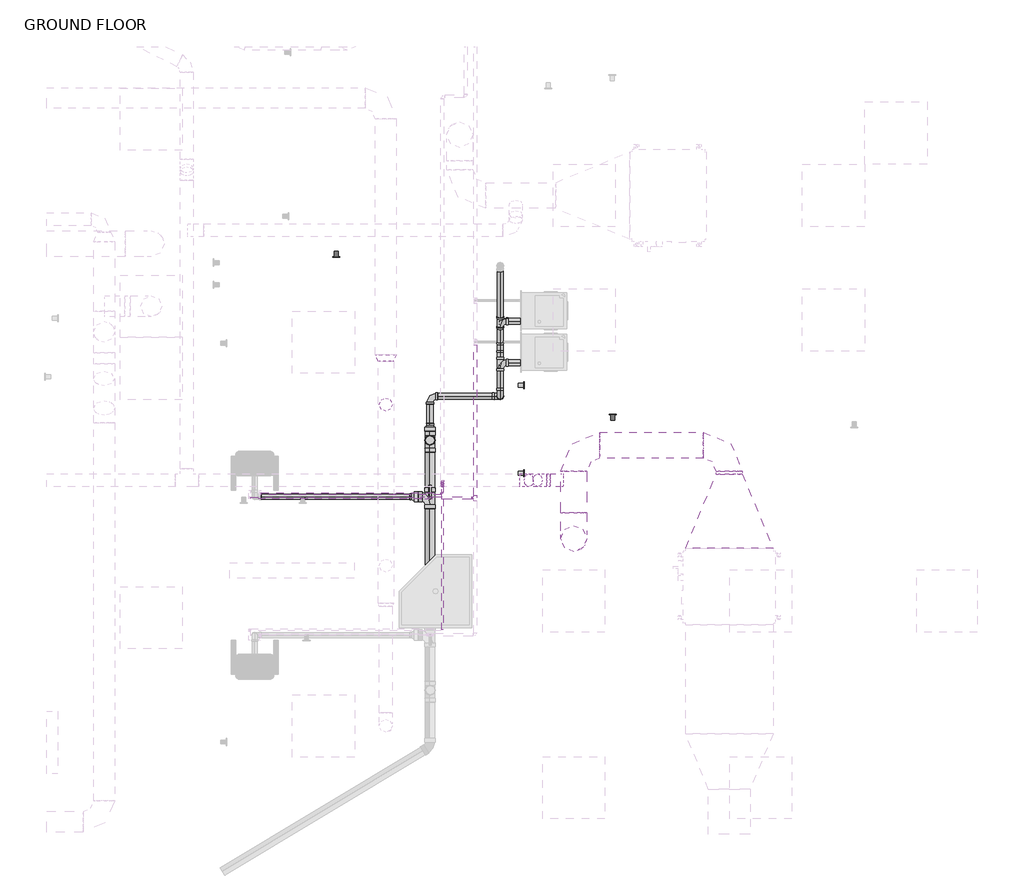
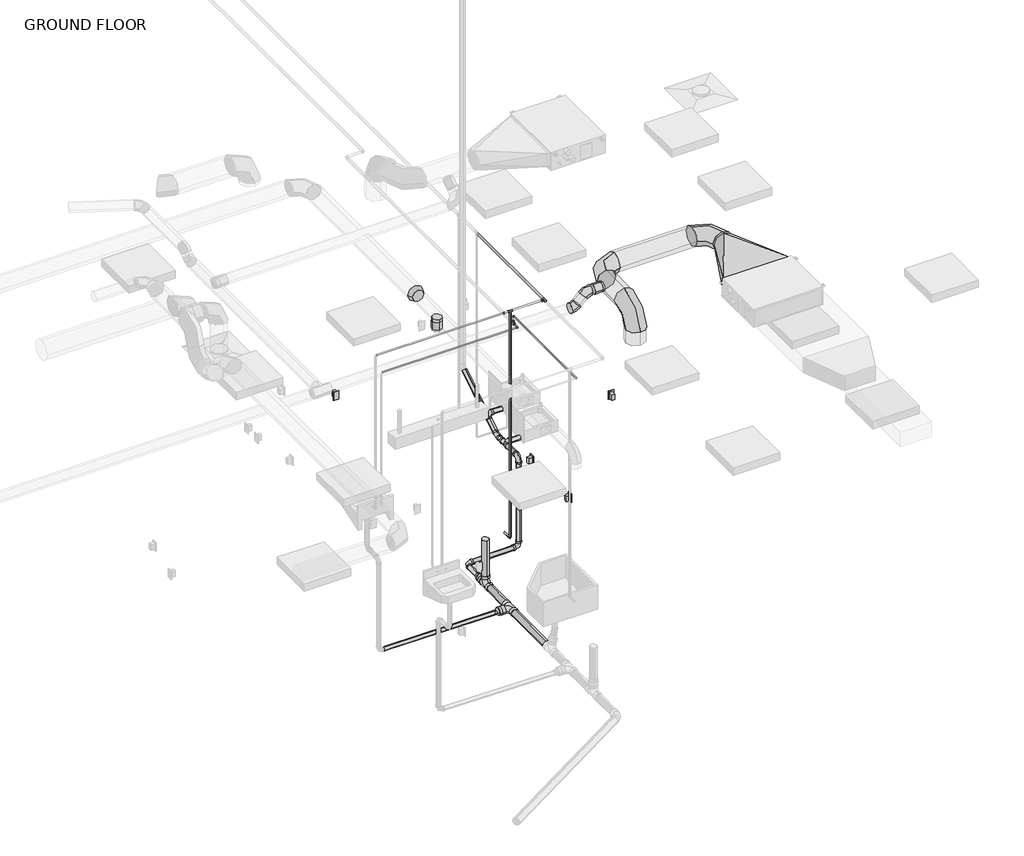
# One storey, part 8 of 20: 23 pipe segments, 20 pipe fittings, 9 duct fittings, 7 duct segments, 2 proxies, 2 switching devices.
"""IFC4 building model written with IfcOpenShell, lengths in millimetres."""

from ifc_helpers import new_model, si_unit, point, frame, frame_2d, origin, place, context, project, spatial, circle_curve, trimmed, segment, composite_curve, outline, extrude, transform, mapped, element, save
from components import duplex_receptacle_countertop_10251bba, rectangular_to_round_transition_angle_45_degree_daff1ed7, round_elbow_1_d_6fec3262, round_elbow_1_d_d98422f0, round_takeoff_standard_0d53327c, round_takeoff_standard_e4d44d96, round_transition_angle_45_degree_998e22e1, bend_pvc_sch_40_dwv_standard_1eaeee76, bend_pvc_sch_40_dwv_standard_d9ad1acb, bend_pvc_sch_40_dwv_standard_2067a29d, bend_pvc_sch_40_dwv_standard_52106326, elbow_generic_standard_738589b0, elbow_generic_standard_a088f956, reducer_pvc_sch_40_dwv_standard_bed7e4d3, reducer_pvc_sch_40_dwv_standard_464ee0c2, tee_generic_standard_5078887e, tee_generic_standard_d345b28c, tee_sanitary_pvc_sch_40_dwv_standard_1c89b272, tee_sanitary_pvc_sch_40_dwv_standard_2808dae9, tee_sanitary_pvc_sch_40_dwv_standard_7b7ecc20, transition_generic_standard_19d9bb8b, transition_generic_standard_44e35838, transition_generic_standard_df161815, transition_generic_standard_1e832544

model = new_model("IFC4")

# Units and contexts
model_context = context("Model", 3, world=origin())
ifc_project = project(units=[si_unit("LENGTHUNIT", "METRE", prefix="MILLI")], contexts=[model_context])

# Site, building, storey
site = spatial("IfcSite", under=ifc_project)
building = spatial("IfcBuilding", under=site)
storey = spatial("IfcBuildingStorey", under=building, Name="GROUND FLOOR", Elevation=30480.0)

# Proxies
placement = place(None, origin())
duplex_receptacle_countertop_shape = duplex_receptacle_countertop_10251bba(model_context)
element("IfcBuildingElementProxy", 1, Name="Duplex Receptacle : Standard", ObjectType="Duplex Receptacle : Standard", at=placement, inside=storey, context=model_context, shape_type="MappedRepresentation", body=[
    mapped(duplex_receptacle_countertop_shape, transform((13856.6545393, -3176.2027773, 30937.2), x_axis=(0.0, 1.0, 0.0), y_axis=(0.0, 0.0, 1.0), z_axis=(1.0, 0.0, 0.0))),
])
element("IfcBuildingElementProxy", 2, Name="Duplex Receptacle : Standard", ObjectType="Duplex Receptacle : Standard", at=placement, inside=storey, context=model_context, shape_type="MappedRepresentation", body=[
    mapped(duplex_receptacle_countertop_shape, transform((13856.6545393, -2316.5298584, 30937.2), x_axis=(0.0, 1.0, 0.0), y_axis=(0.0, 0.0, 1.0), z_axis=(1.0, 0.0, 0.0))),
])

# Duct fittings
rectangular_to_round_transition_angle_45_degree_shape = rectangular_to_round_transition_angle_45_degree_daff1ed7(model_context)
element("IfcDuctFitting", 3, ObjectType="Rectangular to Round Transition - Angle : 45 Degree", at=placement, inside=storey, context=model_context, shape_type="MappedRepresentation", body=[
    mapped(rectangular_to_round_transition_angle_45_degree_shape, transform((15866.7105962, -3910.739426, 33763.74375), x_axis=(0.0, 1.0, 0.0), y_axis=(-1.0, 0.0, 0.0), z_axis=(0.0, 0.0, 1.0))),
])
round_elbow_1_d_shape = round_elbow_1_d_6fec3262(model_context)
element("IfcDuctFitting", 4, ObjectType="Round Elbow : 1 D", at=placement, inside=storey, context=model_context, shape_type="MappedRepresentation", body=[
    mapped(round_elbow_1_d_shape, transform((15866.7105962, -2901.8412376, 33763.74375), x_axis=(0.0, 1.0, 0.0), y_axis=(-1.0, 0.0, 0.0), z_axis=(0.0, 0.0, 1.0))),
])
element("IfcDuctFitting", 5, ObjectType="Round Elbow : 1 D", at=placement, inside=storey, context=model_context, shape_type="MappedRepresentation", body=[
    mapped(round_elbow_1_d_shape, transform((14345.6045393, -3815.3554995, 33763.74375), x_axis=(0.0, 0.0, 1.0), y_axis=(0.0, 1.0, 0.0), z_axis=(-1.0, 0.0, 0.0))),
])
element("IfcDuctFitting", 6, ObjectType="Round Elbow : 1 D", at=placement, inside=storey, context=model_context, shape_type="MappedRepresentation", body=[
    mapped(round_elbow_1_d_shape, transform((14345.6045393, -2901.8412376, 33763.74375), x_axis=(-1.0, 0.0, 0.0), y_axis=(0.0, -1.0, 0.0), z_axis=(0.0, 0.0, 1.0))),
])
round_elbow_1_d_2_shape = round_elbow_1_d_d98422f0(model_context)
element("IfcDuctFitting", 7, ObjectType="Round Elbow : 1 D", at=placement, inside=storey, context=model_context, shape_type="MappedRepresentation", body=[
    mapped(round_elbow_1_d_2_shape, transform((14029.5744977, -3245.6216457, 33763.74375), x_axis=(-1.0, 0.0, 0.0), y_axis=(0.0, 0.0, -1.0), z_axis=(0.0, -1.0, 0.0))),
])
element("IfcDuctFitting", 8, ObjectType="Round Elbow : 1 D", at=placement, inside=storey, context=model_context, shape_type="MappedRepresentation", body=[
    mapped(round_elbow_1_d_2_shape, transform((13868.7409865, -3245.6216457, 33602.9101563), x_axis=(-0.7071065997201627, 0.0, -0.707106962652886), y_axis=(-0.707106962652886, 0.0, 0.7071065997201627), z_axis=(0.0, 1.0, 0.0))),
])
round_takeoff_standard_shape = round_takeoff_standard_0d53327c(model_context)
element("IfcDuctFitting", 9, ObjectType="Round Takeoff : Standard", at=placement, inside=storey, context=model_context, shape_type="MappedRepresentation", body=[
    mapped(round_takeoff_standard_shape, transform((12507.2795393, -2504.0804995, 33451.8), x_axis=(0.0, 0.0, -1.0), y_axis=(-1.0, 0.0, 0.0), z_axis=(0.0, 1.0, 0.0))),
])
round_takeoff_standard_2_shape = round_takeoff_standard_e4d44d96(model_context)
element("IfcDuctFitting", 10, ObjectType="Round Takeoff : Standard", at=placement, inside=storey, context=model_context, shape_type="MappedRepresentation", body=[
    mapped(round_takeoff_standard_2_shape, transform((14218.6045393, -3245.6216457, 33763.74375), x_axis=(-1.0, 0.0, 0.0), y_axis=(0.0, 1.0, 0.0), z_axis=(0.0, 0.0, -1.0))),
])
round_transition_angle_45_degree_shape = round_transition_angle_45_degree_998e22e1(model_context)
element("IfcDuctFitting", 11, ObjectType="Round Transition - Angle : 45 Degree", at=placement, inside=storey, context=model_context, shape_type="MappedRepresentation", body=[
    mapped(round_transition_angle_45_degree_shape, transform((12507.2795393, -2078.3733869, 33528.0), x_axis=(0.0, 1.0, 0.0), y_axis=(-1.0, 0.0, 0.0), z_axis=(0.0, 0.0, 1.0))),
])

# Duct segments
element("IfcDuctSegment", 12, ObjectType="Taps / Short Radius", at=placement, inside=storey, context=model_context, shape_type="SweptSolid", body=[
    extrude(outline(composite_curve([segment(trimmed(circle_curve(frame_2d((33763.74375, 15866.7105962)), 127.0), [point((33763.74375, 15993.7105962))], [point((33890.74375, 15866.7105962))], False, "CARTESIAN"), True, "CONTINUOUS"), segment(trimmed(circle_curve(frame_2d((33763.74375, 15866.7105962)), 127.0), [point((33890.74375, 15866.7105962))], [point((33763.74375, 15739.7105962))], False, "CARTESIAN"), True, "CONTINUOUS"), segment(trimmed(circle_curve(frame_2d((33763.74375, 15866.7105962)), 127.0), [point((33763.74375, 15739.7105962))], [point((33636.74375, 15866.7105962))], False, "CARTESIAN"), True, "CONTINUOUS"), segment(trimmed(circle_curve(frame_2d((33763.74375, 15866.7105962)), 127.0), [point((33636.74375, 15866.7105962))], [point((33763.74375, 15993.7105962))], False, "CARTESIAN"), True, "CONTINUOUS")], self_intersect=False)), frame((0.0, -3184.4685422, 0.0), z_axis=(0.0, 1.0, 0.0), x_axis=(0.0, 0.0, 1.0)), (0.0, 0.0, 1.0), 28.6273046),
])
element("IfcDuctSegment", 13, ObjectType="Taps / Short Radius", at=placement, inside=storey, context=model_context, shape_type="SweptSolid", body=[
    extrude(outline(composite_curve([segment(trimmed(circle_curve(frame_2d((-2901.8412376, 33763.74375)), 127.0), [point((-2774.8412376, 33763.74375))], [point((-2901.8412376, 33636.74375))], False, "CARTESIAN"), True, "CONTINUOUS"), segment(trimmed(circle_curve(frame_2d((-2901.8412376, 33763.74375)), 127.0), [point((-2901.8412376, 33636.74375))], [point((-3028.8412376, 33763.74375))], False, "CARTESIAN"), True, "CONTINUOUS"), segment(trimmed(circle_curve(frame_2d((-2901.8412376, 33763.74375)), 127.0), [point((-3028.8412376, 33763.74375))], [point((-2901.8412376, 33890.74375))], False, "CARTESIAN"), True, "CONTINUOUS"), segment(trimmed(circle_curve(frame_2d((-2901.8412376, 33763.74375)), 127.0), [point((-2901.8412376, 33890.74375))], [point((-2774.8412376, 33763.74375))], False, "CARTESIAN"), True, "CONTINUOUS")], self_intersect=False)), frame((14599.6045393, 0.0, 0.0), z_axis=(1.0, 0.0, 0.0), x_axis=(0.0, 1.0, 0.0)), (0.0, 0.0, 1.0), 1013.1060569),
])
element("IfcDuctSegment", 14, ObjectType="Taps / Short Radius", at=placement, inside=storey, context=model_context, shape_type="SweptSolid", body=[
    extrude(outline(composite_curve([segment(trimmed(circle_curve(frame_2d((33763.74375, 14345.6045393)), 127.0), [point((33763.74375, 14472.6045393))], [point((33890.74375, 14345.6045393))], False, "CARTESIAN"), True, "CONTINUOUS"), segment(trimmed(circle_curve(frame_2d((33763.74375, 14345.6045393)), 127.0), [point((33890.74375, 14345.6045393))], [point((33763.74375, 14218.6045393))], False, "CARTESIAN"), True, "CONTINUOUS"), segment(trimmed(circle_curve(frame_2d((33763.74375, 14345.6045393)), 127.0), [point((33763.74375, 14218.6045393))], [point((33636.74375, 14345.6045393))], False, "CARTESIAN"), True, "CONTINUOUS"), segment(trimmed(circle_curve(frame_2d((33763.74375, 14345.6045393)), 127.0), [point((33636.74375, 14345.6045393))], [point((33763.74375, 14472.6045393))], False, "CARTESIAN"), True, "CONTINUOUS")], self_intersect=False)), frame((0.0, -3561.3554995, 0.0), z_axis=(0.0, 1.0, 0.0), x_axis=(0.0, 0.0, 1.0)), (0.0, 0.0, 1.0), 405.5142618),
])
element("IfcDuctSegment", 15, ObjectType="Taps / Short Radius", at=placement, inside=storey, context=model_context, shape_type="SweptSolid", body=[
    extrude(outline(composite_curve([segment(trimmed(circle_curve(frame_2d((14345.6045393, -3815.3554995)), 127.0), [point((14472.6045393, -3815.3554995))], [point((14345.6045393, -3942.3554995))], False, "CARTESIAN"), True, "CONTINUOUS"), segment(trimmed(circle_curve(frame_2d((14345.6045393, -3815.3554995)), 127.0), [point((14345.6045393, -3942.3554995))], [point((14218.6045393, -3815.3554995))], False, "CARTESIAN"), True, "CONTINUOUS"), segment(trimmed(circle_curve(frame_2d((14345.6045393, -3815.3554995)), 127.0), [point((14218.6045393, -3815.3554995))], [point((14345.6045393, -3688.3554995))], False, "CARTESIAN"), True, "CONTINUOUS"), segment(trimmed(circle_curve(frame_2d((14345.6045393, -3815.3554995)), 127.0), [point((14345.6045393, -3688.3554995))], [point((14472.6045393, -3815.3554995))], False, "CARTESIAN"), True, "CONTINUOUS")], self_intersect=False)), frame((0.0, 0.0, 33324.8), z_axis=(0.0, 0.0, 1.0), x_axis=(1.0, 0.0, 0.0)), (0.0, 0.0, 1.0), 184.94375),
])
element("IfcDuctSegment", 16, ObjectType="Taps / Short Radius", at=placement, inside=storey, context=model_context, shape_type="SweptSolid", body=[
    extrude(outline(composite_curve([segment(trimmed(circle_curve(frame_2d((-3245.6216457, 33763.74375)), 63.5), [point((-3182.1216457, 33763.74375))], [point((-3245.6216457, 33700.24375))], False, "CARTESIAN"), True, "CONTINUOUS"), segment(trimmed(circle_curve(frame_2d((-3245.6216457, 33763.74375)), 63.5), [point((-3245.6216457, 33700.24375))], [point((-3309.1216457, 33763.74375))], False, "CARTESIAN"), True, "CONTINUOUS"), segment(trimmed(circle_curve(frame_2d((-3245.6216457, 33763.74375)), 63.5), [point((-3309.1216457, 33763.74375))], [point((-3245.6216457, 33827.24375))], False, "CARTESIAN"), True, "CONTINUOUS"), segment(trimmed(circle_curve(frame_2d((-3245.6216457, 33763.74375)), 63.5), [point((-3245.6216457, 33827.24375))], [point((-3182.1216457, 33763.74375))], False, "CARTESIAN"), True, "CONTINUOUS")], self_intersect=False)), frame((14082.1796392, 0.0, 0.0), z_axis=(1.0, 0.0, 0.0), x_axis=(0.0, 1.0, 0.0)), (0.0, 0.0, 1.0), 34.8249001),
])
element("IfcDuctSegment", 17, ObjectType="Taps / Short Radius", at=placement, inside=storey, context=model_context, shape_type="SweptSolid", body=[
    extrude(outline(composite_curve([segment(trimmed(circle_curve(frame_2d((0.0, -63.5)), 63.5), [point((0.0, 0.0))], [point((63.5, -63.5))], False, "CARTESIAN"), True, "CONTINUOUS"), segment(trimmed(circle_curve(frame_2d((0.0, -63.5)), 63.5), [point((63.5, -63.5))], [point((0.0, -127.0))], False, "CARTESIAN"), True, "CONTINUOUS"), segment(trimmed(circle_curve(frame_2d((0.0, -63.5)), 63.5), [point((0.0, -127.0))], [point((-63.5, -63.5))], False, "CARTESIAN"), True, "CONTINUOUS"), segment(trimmed(circle_curve(frame_2d((0.0, -63.5)), 63.5), [point((-63.5, -63.5))], [point((0.0, 0.0))], False, "CARTESIAN"), True, "CONTINUOUS")], self_intersect=False)), frame((13905.9384292, -3182.1216457, 33640.1076181), z_axis=(0.7071065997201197, 0.0, 0.7071069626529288), x_axis=(0.7071069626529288, 0.0, -0.7071065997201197)), (0.0, 0.0, 1.0), 122.2427082),
])
element("IfcDuctSegment", 18, ObjectType="Taps / Short Radius", at=placement, inside=storey, context=model_context, shape_type="SweptSolid", body=[
    extrude(outline(composite_curve([segment(trimmed(circle_curve(frame_2d((0.0, 63.5)), 63.5), [point((-63.5, 63.5))], [point((0.0, 127.0))], False, "CARTESIAN"), True, "CONTINUOUS"), segment(trimmed(circle_curve(frame_2d((0.0, 63.5)), 63.5), [point((0.0, 127.0))], [point((63.5, 63.5))], False, "CARTESIAN"), True, "CONTINUOUS"), segment(trimmed(circle_curve(frame_2d((0.0, 63.5)), 63.5), [point((63.5, 63.5))], [point((0.0, 0.0))], False, "CARTESIAN"), True, "CONTINUOUS"), segment(trimmed(circle_curve(frame_2d((0.0, 63.5)), 63.5), [point((0.0, 0.0))], [point((-63.5, 63.5))], False, "CARTESIAN"), True, "CONTINUOUS")], self_intersect=False)), frame((12507.2795393, -2567.5804995, 33324.8), z_axis=(0.0, -2.3192114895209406e-12, 1.0), x_axis=(1.0, 0.0, 0.0)), (0.0, 0.0, 1.0), 25.4),
])

# Pipe fittings
bend_pvc_sch_40_dwv_standard_shape = bend_pvc_sch_40_dwv_standard_1eaeee76(model_context)
element("IfcPipeFitting", 19, ObjectType="Bend - PVC - Sch 40 - DWV : Standard", at=placement, inside=storey, context=model_context, shape_type="MappedRepresentation", body=[
    mapped(bend_pvc_sch_40_dwv_standard_shape, transform((13624.8795393, -2421.2610943, 31115.0), x_axis=(0.0, 0.0, 1.0), y_axis=(0.0, 1.0, 0.0), z_axis=(-1.0, 0.0, 0.0))),
])
bend_pvc_sch_40_dwv_standard_2_shape = bend_pvc_sch_40_dwv_standard_d9ad1acb(model_context)
element("IfcPipeFitting", 20, ObjectType="Bend - PVC - Sch 40 - DWV : Standard", at=placement, inside=storey, context=model_context, shape_type="MappedRepresentation", body=[
    mapped(bend_pvc_sch_40_dwv_standard_2_shape, transform((13624.8795393, -1937.3303096, 31115.0), x_axis=(0.0, 1.0, 0.0), y_axis=(0.0, 0.0, 1.0), z_axis=(1.0, 0.0, 0.0))),
])
bend_pvc_sch_40_dwv_standard_3_shape = bend_pvc_sch_40_dwv_standard_2067a29d(model_context)
element("IfcPipeFitting", 21, ObjectType="Bend - PVC - Sch 40 - DWV : Standard", at=placement, inside=storey, context=model_context, shape_type="MappedRepresentation", body=[
    mapped(bend_pvc_sch_40_dwv_standard_3_shape, transform((12939.0795393, -2421.2610943, 29874.8317708), x_axis=(-0.9999457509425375, 0.0, -0.010416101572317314), y_axis=(0.0001084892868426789, -0.9999457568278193, -0.010414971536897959), z_axis=(-0.010415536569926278, -0.010415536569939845, 0.9998915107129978))),
])
bend_pvc_sch_40_dwv_standard_4_shape = bend_pvc_sch_40_dwv_standard_52106326(model_context)
element("IfcPipeFitting", 22, ObjectType="Bend - PVC - Sch 40 - DWV : Standard", at=placement, inside=storey, context=model_context, shape_type="MappedRepresentation", body=[
    mapped(bend_pvc_sch_40_dwv_standard_4_shape, transform((13624.8795393, -2421.2610943, 29881.9755208), x_axis=(0.9999457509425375, 0.0, 0.010416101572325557), y_axis=(-0.010416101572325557, 0.0, 0.9999457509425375), z_axis=(0.0, -1.0, 0.0))),
])
elbow_generic_standard_shape = elbow_generic_standard_738589b0(model_context)
element("IfcPipeFitting", 23, ObjectType="Elbow - Generic : Standard", at=placement, inside=storey, context=model_context, shape_type="MappedRepresentation", body=[
    mapped(elbow_generic_standard_shape, transform((12939.0795393, -3418.4804995, 30835.6), x_axis=(0.0, 0.0, -1.0), y_axis=(0.0, 1.0, 0.0), z_axis=(1.0, 0.0, 0.0))),
])
elbow_generic_standard_2_shape = elbow_generic_standard_a088f956(model_context)
element("IfcPipeFitting", 24, ObjectType="Elbow - Generic : Standard", at=placement, inside=storey, context=model_context, shape_type="MappedRepresentation", body=[
    mapped(elbow_generic_standard_2_shape, transform((13060.9512041, -3376.3689834, 33680.4), x_axis=(1.0, 0.0, 0.0), y_axis=(0.0, 1.0, 0.0), z_axis=(0.0, 0.0, 1.0))),
])
element("IfcPipeFitting", 25, ObjectType="Elbow - Generic : Standard", at=placement, inside=storey, context=model_context, shape_type="MappedRepresentation", body=[
    mapped(elbow_generic_standard_2_shape, transform((13060.9512041, -3272.4304995, 33782.0), x_axis=(0.0, 1.0, 0.0), y_axis=(0.0, 0.0, -1.0), z_axis=(-1.0, 0.0, 0.0))),
])
reducer_pvc_sch_40_dwv_standard_shape = reducer_pvc_sch_40_dwv_standard_bed7e4d3(model_context)
element("IfcPipeFitting", 26, ObjectType="Reducer - PVC - Sch 40 - DWV : Standard", at=placement, inside=storey, context=model_context, shape_type="MappedRepresentation", body=[
    mapped(reducer_pvc_sch_40_dwv_standard_shape, transform((12823.1798933, -3405.7804995, 29865.00368), x_axis=(-0.9999952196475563, 0.0, 0.0030920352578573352), y_axis=(-3.2206799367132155e-05, -0.9999457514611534, -0.010416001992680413), z_axis=(0.003091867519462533, -0.010416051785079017, 0.9999409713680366))),
])
reducer_pvc_sch_40_dwv_standard_2_shape = reducer_pvc_sch_40_dwv_standard_464ee0c2(model_context)
element("IfcPipeFitting", 27, ObjectType="Reducer - PVC - Sch 40 - DWV : Standard", at=placement, inside=storey, context=model_context, shape_type="MappedRepresentation", body=[
    mapped(reducer_pvc_sch_40_dwv_standard_2_shape, transform((12939.0795393, -2764.1614629, 29871.3288441), x_axis=(0.0, 0.9999457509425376, 0.010416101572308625), y_axis=(-1.0, 0.0, 0.0), z_axis=(0.0, -0.010416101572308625, 0.9999457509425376))),
])
tee_generic_standard_shape = tee_generic_standard_5078887e(model_context)
element("IfcPipeFitting", 28, ObjectType="Tee - Generic : Standard", at=placement, inside=storey, context=model_context, shape_type="MappedRepresentation", body=[
    mapped(tee_generic_standard_shape, transform((12939.0795393, -3418.4804995, 33978.2831664), x_axis=(-1.0, 0.0, 0.0), y_axis=(0.0, 0.0, 1.0), z_axis=(0.0, 1.0, 0.0))),
])
tee_generic_standard_2_shape = tee_generic_standard_d345b28c(model_context)
element("IfcPipeFitting", 29, ObjectType="Tee - Generic : Standard", at=placement, inside=storey, context=model_context, shape_type="MappedRepresentation", body=[
    mapped(tee_generic_standard_2_shape, transform((13383.5569177, -3418.4804995, 33978.2831664), x_axis=(0.0, -1.0, 0.0), y_axis=(1.0, 0.0, 0.0), z_axis=(0.0, 0.0, 1.0))),
])
element("IfcPipeFitting", 30, ObjectType="Tee - Generic : Standard", at=placement, inside=storey, context=model_context, shape_type="MappedRepresentation", body=[
    mapped(tee_generic_standard_2_shape, transform((13060.9512041, -3272.4304995, 33680.4), x_axis=(0.0, 1.0, 0.0), y_axis=(0.0, 0.0, -1.0), z_axis=(-1.0, 0.0, 0.0))),
])
tee_sanitary_pvc_sch_40_dwv_standard_shape = tee_sanitary_pvc_sch_40_dwv_standard_1c89b272(model_context)
element("IfcPipeFitting", 31, ObjectType="Tee Sanitary - PVC - Sch 40 - DWV : Standard", at=placement, inside=storey, context=model_context, shape_type="MappedRepresentation", body=[
    mapped(tee_sanitary_pvc_sch_40_dwv_standard_shape, transform((12939.0795393, -2853.3308732, 29870.3999961), x_axis=(0.0, 0.9999457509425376, 0.010416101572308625), y_axis=(0.0, 0.010416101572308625, -0.9999457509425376), z_axis=(-1.0, 0.0, 0.0))),
])
tee_sanitary_pvc_sch_40_dwv_standard_2_shape = tee_sanitary_pvc_sch_40_dwv_standard_2808dae9(model_context)
element("IfcPipeFitting", 32, ObjectType="Tee Sanitary - PVC - Sch 40 - DWV : Standard", at=placement, inside=storey, context=model_context, shape_type="MappedRepresentation", body=[
    mapped(tee_sanitary_pvc_sch_40_dwv_standard_2_shape, transform((12939.0795393, -3405.7804995, 29864.6453125), x_axis=(0.0, 0.9999457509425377, 0.010416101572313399), y_axis=(0.9999952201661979, 3.2205206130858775e-05, -0.0030916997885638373), z_axis=(-0.0030918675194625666, 0.010416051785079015, -0.9999409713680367))),
])
tee_sanitary_pvc_sch_40_dwv_standard_3_shape = tee_sanitary_pvc_sch_40_dwv_standard_7b7ecc20(model_context)
element("IfcPipeFitting", 33, ObjectType="Tee Sanitary - PVC - Sch 40 - DWV : Standard", at=placement, inside=storey, context=model_context, shape_type="MappedRepresentation", body=[
    mapped(tee_sanitary_pvc_sch_40_dwv_standard_3_shape, transform((13624.8795393, -2094.5054995, 31115.0), x_axis=(0.0, 1.0, 0.0), y_axis=(-1.0, 0.0, 0.0), z_axis=(0.0, 0.0, 1.0))),
])
element("IfcPipeFitting", 34, ObjectType="Tee Sanitary - PVC - Sch 40 - DWV : Standard", at=placement, inside=storey, context=model_context, shape_type="MappedRepresentation", body=[
    mapped(tee_sanitary_pvc_sch_40_dwv_standard_3_shape, transform((13624.8795393, -1688.1054995, 31267.4), x_axis=(0.0, 0.8531356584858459, 0.5216891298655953), y_axis=(-1.0, 0.0, 0.0), z_axis=(0.0, -0.5216891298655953, 0.8531356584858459))),
])
transition_generic_standard_shape = transition_generic_standard_19d9bb8b(model_context)
element("IfcPipeFitting", 35, ObjectType="Transition - Generic : Standard", at=placement, inside=storey, context=model_context, shape_type="MappedRepresentation", body=[
    mapped(transition_generic_standard_shape, transform((13060.9512041, -3272.4304995, 33707.3875), x_axis=(0.0, 0.0, 1.0), y_axis=(0.0, 1.0, 0.0), z_axis=(-1.0, 0.0, 0.0))),
])
transition_generic_standard_2_shape = transition_generic_standard_44e35838(model_context)
element("IfcPipeFitting", 36, ObjectType="Transition - Generic : Standard", at=placement, inside=storey, context=model_context, shape_type="MappedRepresentation", body=[
    mapped(transition_generic_standard_2_shape, transform((12855.7357893, -3418.4804995, 33978.2831664), x_axis=(-1.0, 0.0, 0.0), y_axis=(0.0, -1.0, 0.0), z_axis=(0.0, 0.0, 1.0))),
])
transition_generic_standard_3_shape = transition_generic_standard_df161815(model_context)
element("IfcPipeFitting", 37, ObjectType="Transition - Generic : Standard", at=placement, inside=storey, context=model_context, shape_type="MappedRepresentation", body=[
    mapped(transition_generic_standard_3_shape, transform((13060.9512041, -3299.4179995, 33680.4), x_axis=(0.0, -1.0, 0.0), y_axis=(1.0, 0.0, 0.0), z_axis=(0.0, 0.0, 1.0))),
])
transition_generic_standard_4_shape = transition_generic_standard_1e832544(model_context)
element("IfcPipeFitting", 38, ObjectType="Transition - Generic : Standard", at=placement, inside=storey, context=model_context, shape_type="MappedRepresentation", body=[
    mapped(transition_generic_standard_4_shape, transform((13356.5694177, -3418.4804995, 33978.2831664), x_axis=(-1.0, 0.0, 0.0), y_axis=(0.0, -1.0, 0.0), z_axis=(0.0, 0.0, 1.0))),
])

# Pipe segments
element("IfcPipeSegment", 39, ObjectType="Copper Tubing", at=placement, inside=storey, context=model_context, shape_type="SweptSolid", body=[
    extrude(outline(composite_curve([segment(trimmed(circle_curve(frame_2d((-3418.4804995, 33978.2831664)), 7.9375), [point((-3426.4179995, 33978.2831664))], [point((-3418.4804995, 33986.2206664))], False, "CARTESIAN"), True, "CONTINUOUS"), segment(trimmed(circle_curve(frame_2d((-3418.4804995, 33978.2831664)), 7.9375), [point((-3418.4804995, 33986.2206664))], [point((-3410.5429995, 33978.2831664))], False, "CARTESIAN"), True, "CONTINUOUS"), segment(trimmed(circle_curve(frame_2d((-3418.4804995, 33978.2831664)), 7.9375), [point((-3410.5429995, 33978.2831664))], [point((-3418.4804995, 33970.3456664))], False, "CARTESIAN"), True, "CONTINUOUS"), segment(trimmed(circle_curve(frame_2d((-3418.4804995, 33978.2831664)), 7.9375), [point((-3418.4804995, 33970.3456664))], [point((-3426.4179995, 33978.2831664))], False, "CARTESIAN"), True, "CONTINUOUS")], self_intersect=False)), frame((11188.0670393, 0.0, 0.0), z_axis=(1.0, 0.0, 0.0), x_axis=(0.0, 1.0, 0.0)), (0.0, 0.0, 1.0), 1662.1125),
])
element("IfcPipeSegment", 40, ObjectType="Copper Tubing", at=placement, inside=storey, context=model_context, shape_type="SweptSolid", body=[
    extrude(outline(composite_curve([segment(trimmed(circle_curve(frame_2d((-3418.4804995, 33978.2831664)), 11.1125), [point((-3407.3679995, 33978.2831664))], [point((-3418.4804995, 33967.1706664))], False, "CARTESIAN"), True, "CONTINUOUS"), segment(trimmed(circle_curve(frame_2d((-3418.4804995, 33978.2831664)), 11.1125), [point((-3418.4804995, 33967.1706664))], [point((-3429.5929995, 33978.2831664))], False, "CARTESIAN"), True, "CONTINUOUS"), segment(trimmed(circle_curve(frame_2d((-3418.4804995, 33978.2831664)), 11.1125), [point((-3429.5929995, 33978.2831664))], [point((-3418.4804995, 33989.3956664))], False, "CARTESIAN"), True, "CONTINUOUS"), segment(trimmed(circle_curve(frame_2d((-3418.4804995, 33978.2831664)), 11.1125), [point((-3418.4804995, 33989.3956664))], [point((-3407.3679995, 33978.2831664))], False, "CARTESIAN"), True, "CONTINUOUS")], self_intersect=False)), frame((12855.7357893, 0.0, 0.0), z_axis=(1.0, 0.0, 0.0), x_axis=(0.0, 1.0, 0.0)), (0.0, 0.0, 1.0), 59.53125),
])
element("IfcPipeSegment", 41, ObjectType="Copper Tubing", at=placement, inside=storey, context=model_context, shape_type="SweptSolid", body=[
    extrude(outline(composite_curve([segment(trimmed(circle_curve(frame_2d((33978.2831664, 13383.5569177)), 14.2875), [point((33978.2831664, 13369.2694177))], [point((33963.9956664, 13383.5569177))], False, "CARTESIAN"), True, "CONTINUOUS"), segment(trimmed(circle_curve(frame_2d((33978.2831664, 13383.5569177)), 14.2875), [point((33963.9956664, 13383.5569177))], [point((33978.2831664, 13397.8444177))], False, "CARTESIAN"), True, "CONTINUOUS"), segment(trimmed(circle_curve(frame_2d((33978.2831664, 13383.5569177)), 14.2875), [point((33978.2831664, 13397.8444177))], [point((33992.5706664, 13383.5569177))], False, "CARTESIAN"), True, "CONTINUOUS"), segment(trimmed(circle_curve(frame_2d((33978.2831664, 13383.5569177)), 14.2875), [point((33992.5706664, 13383.5569177))], [point((33978.2831664, 13369.2694177))], False, "CARTESIAN"), True, "CONTINUOUS")], self_intersect=False)), frame((0.0, -3391.4929995, 0.0), z_axis=(0.0, 1.0, 0.0), x_axis=(0.0, 0.0, 1.0)), (0.0, 0.0, 1.0), 1473.2),
])
element("IfcPipeSegment", 42, ObjectType="Copper Tubing", at=placement, inside=storey, context=model_context, shape_type="SweptSolid", body=[
    extrude(outline(composite_curve([segment(trimmed(circle_curve(frame_2d((30835.6, 12939.0795393)), 11.1125), [point((30835.6, 12950.1920393))], [point((30846.7125, 12939.0795393))], False, "CARTESIAN"), True, "CONTINUOUS"), segment(trimmed(circle_curve(frame_2d((30835.6, 12939.0795393)), 11.1125), [point((30846.7125, 12939.0795393))], [point((30835.6, 12927.9670393))], False, "CARTESIAN"), True, "CONTINUOUS"), segment(trimmed(circle_curve(frame_2d((30835.6, 12939.0795393)), 11.1125), [point((30835.6, 12927.9670393))], [point((30824.4875, 12939.0795393))], False, "CARTESIAN"), True, "CONTINUOUS"), segment(trimmed(circle_curve(frame_2d((30835.6, 12939.0795393)), 11.1125), [point((30824.4875, 12939.0795393))], [point((30835.6, 12950.1920393))], False, "CARTESIAN"), True, "CONTINUOUS")], self_intersect=False)), frame((0.0, -3401.0179995, 0.0), z_axis=(0.0, 1.0, 0.0), x_axis=(0.0, 0.0, 1.0)), (0.0, 0.0, 1.0), 109.5375),
])
element("IfcPipeSegment", 43, ObjectType="Copper Tubing", at=placement, inside=storey, context=model_context, shape_type="SweptSolid", body=[
    extrude(outline(composite_curve([segment(trimmed(circle_curve(frame_2d((12939.0795393, -3418.4804995)), 11.1125), [point((12950.1920393, -3418.4804995))], [point((12939.0795393, -3429.5929995))], False, "CARTESIAN"), True, "CONTINUOUS"), segment(trimmed(circle_curve(frame_2d((12939.0795393, -3418.4804995)), 11.1125), [point((12939.0795393, -3429.5929995))], [point((12927.9670393, -3418.4804995))], False, "CARTESIAN"), True, "CONTINUOUS"), segment(trimmed(circle_curve(frame_2d((12939.0795393, -3418.4804995)), 11.1125), [point((12927.9670393, -3418.4804995))], [point((12939.0795393, -3407.3679995))], False, "CARTESIAN"), True, "CONTINUOUS"), segment(trimmed(circle_curve(frame_2d((12939.0795393, -3418.4804995)), 11.1125), [point((12939.0795393, -3407.3679995))], [point((12950.1920393, -3418.4804995))], False, "CARTESIAN"), True, "CONTINUOUS")], self_intersect=False)), frame((0.0, 0.0, 30853.0625), z_axis=(0.0, 0.0, 1.0), x_axis=(1.0, 0.0, 0.0)), (0.0, 0.0, 1.0), 3101.4081664),
])
element("IfcPipeSegment", 44, ObjectType="Copper Tubing", at=placement, inside=storey, context=model_context, shape_type="SweptSolid", body=[
    extrude(outline(composite_curve([segment(trimmed(circle_curve(frame_2d((-3418.4804995, 33978.2831664)), 11.1125), [point((-3407.3679995, 33978.2831664))], [point((-3418.4804995, 33967.1706664))], False, "CARTESIAN"), True, "CONTINUOUS"), segment(trimmed(circle_curve(frame_2d((-3418.4804995, 33978.2831664)), 11.1125), [point((-3418.4804995, 33967.1706664))], [point((-3429.5929995, 33978.2831664))], False, "CARTESIAN"), True, "CONTINUOUS"), segment(trimmed(circle_curve(frame_2d((-3418.4804995, 33978.2831664)), 11.1125), [point((-3429.5929995, 33978.2831664))], [point((-3418.4804995, 33989.3956664))], False, "CARTESIAN"), True, "CONTINUOUS"), segment(trimmed(circle_curve(frame_2d((-3418.4804995, 33978.2831664)), 11.1125), [point((-3418.4804995, 33989.3956664))], [point((-3407.3679995, 33978.2831664))], False, "CARTESIAN"), True, "CONTINUOUS")], self_intersect=False)), frame((12962.8920393, 0.0, 0.0), z_axis=(1.0, 0.0, 0.0), x_axis=(0.0, 1.0, 0.0)), (0.0, 0.0, 1.0), 386.5336284),
])
element("IfcPipeSegment", 45, ObjectType="Copper Tubing", at=placement, inside=storey, context=model_context, shape_type="SweptSolid", body=[
    extrude(outline(composite_curve([segment(trimmed(circle_curve(frame_2d((33680.4, 13060.9512041)), 7.9375), [point((33680.4, 13053.0137041))], [point((33672.4625, 13060.9512041))], False, "CARTESIAN"), True, "CONTINUOUS"), segment(trimmed(circle_curve(frame_2d((33680.4, 13060.9512041)), 7.9375), [point((33672.4625, 13060.9512041))], [point((33680.4, 13068.8887041))], False, "CARTESIAN"), True, "CONTINUOUS"), segment(trimmed(circle_curve(frame_2d((33680.4, 13060.9512041)), 7.9375), [point((33680.4, 13068.8887041))], [point((33688.3375, 13060.9512041))], False, "CARTESIAN"), True, "CONTINUOUS"), segment(trimmed(circle_curve(frame_2d((33680.4, 13060.9512041)), 7.9375), [point((33688.3375, 13060.9512041))], [point((33680.4, 13053.0137041))], False, "CARTESIAN"), True, "CONTINUOUS")], self_intersect=False)), frame((0.0, -3362.0814834, 0.0), z_axis=(0.0, 1.0, 0.0), x_axis=(0.0, 0.0, 1.0)), (0.0, 0.0, 1.0), 55.5197339),
])
element("IfcPipeSegment", 46, ObjectType="Copper Tubing", at=placement, inside=storey, context=model_context, shape_type="SweptSolid", body=[
    extrude(outline(composite_curve([segment(trimmed(circle_curve(frame_2d((-3376.3689834, 33680.4)), 7.9375), [point((-3368.4314834, 33680.4))], [point((-3376.3689834, 33672.4625))], False, "CARTESIAN"), True, "CONTINUOUS"), segment(trimmed(circle_curve(frame_2d((-3376.3689834, 33680.4)), 7.9375), [point((-3376.3689834, 33672.4625))], [point((-3384.3064834, 33680.4))], False, "CARTESIAN"), True, "CONTINUOUS"), segment(trimmed(circle_curve(frame_2d((-3376.3689834, 33680.4)), 7.9375), [point((-3384.3064834, 33680.4))], [point((-3376.3689834, 33688.3375))], False, "CARTESIAN"), True, "CONTINUOUS"), segment(trimmed(circle_curve(frame_2d((-3376.3689834, 33680.4)), 7.9375), [point((-3376.3689834, 33688.3375))], [point((-3368.4314834, 33680.4))], False, "CARTESIAN"), True, "CONTINUOUS")], self_intersect=False)), frame((11289.6670393, 0.0, 0.0), z_axis=(1.0, 0.0, 0.0), x_axis=(0.0, 1.0, 0.0)), (0.0, 0.0, 1.0), 1756.9966648),
])
element("IfcPipeSegment", 47, ObjectType="Copper Tubing", at=placement, inside=storey, context=model_context, shape_type="SweptSolid", body=[
    extrude(outline(composite_curve([segment(trimmed(circle_curve(frame_2d((33782.0, 13060.9512041)), 7.9375), [point((33782.0, 13068.8887041))], [point((33789.9375, 13060.9512041))], False, "CARTESIAN"), True, "CONTINUOUS"), segment(trimmed(circle_curve(frame_2d((33782.0, 13060.9512041)), 7.9375), [point((33789.9375, 13060.9512041))], [point((33782.0, 13053.0137041))], False, "CARTESIAN"), True, "CONTINUOUS"), segment(trimmed(circle_curve(frame_2d((33782.0, 13060.9512041)), 7.9375), [point((33782.0, 13053.0137041))], [point((33774.0625, 13060.9512041))], False, "CARTESIAN"), True, "CONTINUOUS"), segment(trimmed(circle_curve(frame_2d((33782.0, 13060.9512041)), 7.9375), [point((33774.0625, 13060.9512041))], [point((33782.0, 13068.8887041))], False, "CARTESIAN"), True, "CONTINUOUS")], self_intersect=False)), frame((0.0, -4707.5304995, 0.0), z_axis=(0.0, 1.0, 0.0), x_axis=(0.0, 0.0, 1.0)), (0.0, 0.0, 1.0), 1420.8125),
])
element("IfcPipeSegment", 48, ObjectType="Copper Tubing", at=placement, inside=storey, context=model_context, shape_type="SweptSolid", body=[
    extrude(outline(composite_curve([segment(trimmed(circle_curve(frame_2d((13060.9512041, -3272.4304995)), 7.9375), [point((13053.0137041, -3272.4304995))], [point((13060.9512041, -3264.4929995))], False, "CARTESIAN"), True, "CONTINUOUS"), segment(trimmed(circle_curve(frame_2d((13060.9512041, -3272.4304995)), 7.9375), [point((13060.9512041, -3264.4929995))], [point((13068.8887041, -3272.4304995))], False, "CARTESIAN"), True, "CONTINUOUS"), segment(trimmed(circle_curve(frame_2d((13060.9512041, -3272.4304995)), 7.9375), [point((13068.8887041, -3272.4304995))], [point((13060.9512041, -3280.3679995))], False, "CARTESIAN"), True, "CONTINUOUS"), segment(trimmed(circle_curve(frame_2d((13060.9512041, -3272.4304995)), 7.9375), [point((13060.9512041, -3280.3679995))], [point((13053.0137041, -3272.4304995))], False, "CARTESIAN"), True, "CONTINUOUS")], self_intersect=False)), frame((0.0, 0.0, 33714.53125), z_axis=(0.0, 0.0, 1.0), x_axis=(1.0, 0.0, 0.0)), (0.0, 0.0, 1.0), 53.18125),
])
element("IfcPipeSegment", 49, ObjectType="PVC - DWV", at=placement, inside=storey, context=model_context, shape_type="SweptSolid", body=[
    extrude(outline(composite_curve([segment(trimmed(circle_curve(frame_2d((0.0, -44.45)), 44.45), [point((-44.45, -44.45))], [point((0.0, 0.0))], False, "CARTESIAN"), True, "CONTINUOUS"), segment(trimmed(circle_curve(frame_2d((0.0, -44.45)), 44.45), [point((0.0, 0.0))], [point((44.45, -44.45))], False, "CARTESIAN"), True, "CONTINUOUS"), segment(trimmed(circle_curve(frame_2d((0.0, -44.45)), 44.45), [point((44.45, -44.45))], [point((0.0, -88.9))], False, "CARTESIAN"), True, "CONTINUOUS"), segment(trimmed(circle_curve(frame_2d((0.0, -44.45)), 44.45), [point((0.0, -88.9))], [point((-44.45, -44.45))], False, "CARTESIAN"), True, "CONTINUOUS")], self_intersect=False)), frame((12939.0795393, -2897.7808732, 29986.3002298), z_axis=(0.0, 7.569413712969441e-07, 0.9999999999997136), x_axis=(-1.0, 0.0, 0.0)), (0.0, 0.0, 1.0), 493.6998039),
])
element("IfcPipeSegment", 50, ObjectType="PVC - DWV", at=placement, inside=storey, context=model_context, shape_type="SweptSolid", body=[
    extrude(outline(composite_curve([segment(trimmed(circle_curve(frame_2d((0.0, 24.209375)), 24.209375), [point((0.0, 48.41875))], [point((24.209375, 24.209375))], False, "CARTESIAN"), True, "CONTINUOUS"), segment(trimmed(circle_curve(frame_2d((0.0, 24.209375)), 24.209375), [point((24.209375, 24.209375))], [point((0.0, 0.0))], False, "CARTESIAN"), True, "CONTINUOUS"), segment(trimmed(circle_curve(frame_2d((0.0, 24.209375)), 24.209375), [point((0.0, 0.0))], [point((-24.209375, 24.209375))], False, "CARTESIAN"), True, "CONTINUOUS"), segment(trimmed(circle_curve(frame_2d((0.0, 24.209375)), 24.209375), [point((-24.209375, 24.209375))], [point((0.0, 48.41875))], False, "CARTESIAN"), True, "CONTINUOUS")], self_intersect=False)), frame((12739.8428917, -3429.9898745, 29865.2613622), z_axis=(-0.9999952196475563, 0.0, 0.0030920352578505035), x_axis=(0.0030920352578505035, 0.0, 0.9999952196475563)), (0.0, 0.0, 1.0), 1453.370796),
])
element("IfcPipeSegment", 51, ObjectType="PVC - DWV", at=placement, inside=storey, context=model_context, shape_type="SweptSolid", body=[
    extrude(outline(composite_curve([segment(trimmed(circle_curve(frame_2d((0.0, -44.45)), 44.45), [point((-44.45, -44.45))], [point((0.0, 0.0))], False, "CARTESIAN"), True, "CONTINUOUS"), segment(trimmed(circle_curve(frame_2d((0.0, -44.45)), 44.45), [point((0.0, 0.0))], [point((44.45, -44.45))], False, "CARTESIAN"), True, "CONTINUOUS"), segment(trimmed(circle_curve(frame_2d((0.0, -44.45)), 44.45), [point((44.45, -44.45))], [point((0.0, -88.8999999))], False, "CARTESIAN"), True, "CONTINUOUS"), segment(trimmed(circle_curve(frame_2d((0.0, -44.45)), 44.45), [point((0.0, -88.8999999))], [point((-44.45, -44.45))], False, "CARTESIAN"), True, "CONTINUOUS")], self_intersect=False)), frame((12939.0795393, -3316.953192, 29821.1181855), z_axis=(0.0, 0.9999457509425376, 0.010416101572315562), x_axis=(1.0, 0.0, 0.0)), (0.0, 0.0, 1.0), 348.2102921),
])
element("IfcPipeSegment", 52, ObjectType="PVC - DWV", at=placement, inside=storey, context=model_context, shape_type="SweptSolid", body=[
    extrude(outline(composite_curve([segment(trimmed(circle_curve(frame_2d((-2094.5054995, 31115.0)), 30.1625), [point((-2064.3429995, 31115.0))], [point((-2094.5054995, 31084.8375))], False, "CARTESIAN"), True, "CONTINUOUS"), segment(trimmed(circle_curve(frame_2d((-2094.5054995, 31115.0)), 30.1625), [point((-2094.5054995, 31084.8375))], [point((-2124.6679995, 31115.0))], False, "CARTESIAN"), True, "CONTINUOUS"), segment(trimmed(circle_curve(frame_2d((-2094.5054995, 31115.0)), 30.1625), [point((-2124.6679995, 31115.0))], [point((-2094.5054995, 31145.1625))], False, "CARTESIAN"), True, "CONTINUOUS"), segment(trimmed(circle_curve(frame_2d((-2094.5054995, 31115.0)), 30.1625), [point((-2094.5054995, 31145.1625))], [point((-2064.3429995, 31115.0))], False, "CARTESIAN"), True, "CONTINUOUS")], self_intersect=False)), frame((13702.6797393, 0.0, 0.0), z_axis=(1.0, 0.0, 0.0), x_axis=(0.0, 1.0, 0.0)), (0.0, 0.0, 1.0), 125.3998),
])
element("IfcPipeSegment", 53, ObjectType="PVC - DWV", at=placement, inside=storey, context=model_context, shape_type="SweptSolid", body=[
    extrude(outline(composite_curve([segment(trimmed(circle_curve(frame_2d((-1688.1054995, 31267.4)), 30.1625), [point((-1657.9429995, 31267.4))], [point((-1688.1054995, 31237.2375))], False, "CARTESIAN"), True, "CONTINUOUS"), segment(trimmed(circle_curve(frame_2d((-1688.1054995, 31267.4)), 30.1625), [point((-1688.1054995, 31237.2375))], [point((-1718.2679995, 31267.4))], False, "CARTESIAN"), True, "CONTINUOUS"), segment(trimmed(circle_curve(frame_2d((-1688.1054995, 31267.4)), 30.1625), [point((-1718.2679995, 31267.4))], [point((-1688.1054995, 31297.5625))], False, "CARTESIAN"), True, "CONTINUOUS"), segment(trimmed(circle_curve(frame_2d((-1688.1054995, 31267.4)), 30.1625), [point((-1688.1054995, 31297.5625))], [point((-1657.9429995, 31267.4))], False, "CARTESIAN"), True, "CONTINUOUS")], self_intersect=False)), frame((13702.6797393, 0.0, 0.0), z_axis=(1.0, 0.0, 0.0), x_axis=(0.0, 1.0, 0.0)), (0.0, 0.0, 1.0), 125.3998),
])
element("IfcPipeSegment", 54, ObjectType="PVC - DWV", at=placement, inside=storey, context=model_context, shape_type="SweptSolid", body=[
    extrude(outline(composite_curve([segment(trimmed(circle_curve(frame_2d((0.0, 30.1625)), 30.1625), [point((30.1625, 30.1625))], [point((0.0, 0.0))], False, "CARTESIAN"), True, "CONTINUOUS"), segment(trimmed(circle_curve(frame_2d((0.0, 30.1625)), 30.1625), [point((0.0, 0.0))], [point((-30.1625, 30.1625))], False, "CARTESIAN"), True, "CONTINUOUS"), segment(trimmed(circle_curve(frame_2d((0.0, 30.1625)), 30.1625), [point((-30.1625, 30.1625))], [point((0.0, 60.325))], False, "CARTESIAN"), True, "CONTINUOUS"), segment(trimmed(circle_curve(frame_2d((0.0, 30.1625)), 30.1625), [point((0.0, 60.325))], [point((30.1625, 30.1625))], False, "CARTESIAN"), True, "CONTINUOUS")], self_intersect=False)), frame((13624.8795393, -1904.3090551, 31170.5472381), z_axis=(0.0, 0.8531356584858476, 0.5216891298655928), x_axis=(1.0, 0.0, 0.0)), (0.0, 0.0, 1.0), 157.1777959),
])
element("IfcPipeSegment", 55, ObjectType="PVC - DWV", at=placement, inside=storey, context=model_context, shape_type="SweptSolid", body=[
    extrude(outline(composite_curve([segment(trimmed(circle_curve(frame_2d((31115.0, 13624.8795393)), 30.1625), [point((31115.0, 13655.0420393))], [point((31145.1625, 13624.8795393))], False, "CARTESIAN"), True, "CONTINUOUS"), segment(trimmed(circle_curve(frame_2d((31115.0, 13624.8795393)), 30.1625), [point((31145.1625, 13624.8795393))], [point((31115.0, 13594.7170393))], False, "CARTESIAN"), True, "CONTINUOUS"), segment(trimmed(circle_curve(frame_2d((31115.0, 13624.8795393)), 30.1625), [point((31115.0, 13594.7170393))], [point((31084.8375, 13624.8795393))], False, "CARTESIAN"), True, "CONTINUOUS"), segment(trimmed(circle_curve(frame_2d((31115.0, 13624.8795393)), 30.1625), [point((31084.8375, 13624.8795393))], [point((31115.0, 13655.0420393))], False, "CARTESIAN"), True, "CONTINUOUS")], self_intersect=False)), frame((0.0, -2040.5304995, 0.0), z_axis=(0.0, 1.0, 0.0), x_axis=(0.0, 0.0, 1.0)), (0.0, 0.0, 1.0), 46.0501898),
])
element("IfcPipeSegment", 56, ObjectType="PVC - DWV", at=placement, inside=storey, context=model_context, shape_type="SweptSolid", body=[
    extrude(outline(composite_curve([segment(trimmed(circle_curve(frame_2d((0.0, 30.1625)), 30.1625), [point((30.1625, 30.1625))], [point((0.0, 0.0))], False, "CARTESIAN"), True, "CONTINUOUS"), segment(trimmed(circle_curve(frame_2d((0.0, 30.1625)), 30.1625), [point((0.0, 0.0))], [point((-30.1625, 30.1625))], False, "CARTESIAN"), True, "CONTINUOUS"), segment(trimmed(circle_curve(frame_2d((0.0, 30.1625)), 30.1625), [point((-30.1625, 30.1625))], [point((0.0, 60.325))], False, "CARTESIAN"), True, "CONTINUOUS"), segment(trimmed(circle_curve(frame_2d((0.0, 30.1625)), 30.1625), [point((0.0, 60.325))], [point((30.1625, 30.1625))], False, "CARTESIAN"), True, "CONTINUOUS")], self_intersect=False)), frame((12939.0795393, -2685.1049446, 29902.3164859), z_axis=(0.0, 0.9999457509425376, 0.010416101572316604), x_axis=(1.0, 0.0, 0.0)), (0.0, 0.0, 1.0), 185.7430535),
])
element("IfcPipeSegment", 57, ObjectType="PVC - DWV", at=placement, inside=storey, context=model_context, shape_type="SweptSolid", body=[
    extrude(outline(composite_curve([segment(trimmed(circle_curve(frame_2d((0.0, 30.1625)), 30.1625), [point((0.0, 0.0))], [point((-30.1625, 30.1625))], False, "CARTESIAN"), True, "CONTINUOUS"), segment(trimmed(circle_curve(frame_2d((0.0, 30.1625)), 30.1625), [point((-30.1625, 30.1625))], [point((0.0, 60.325))], False, "CARTESIAN"), True, "CONTINUOUS"), segment(trimmed(circle_curve(frame_2d((0.0, 30.1625)), 30.1625), [point((0.0, 60.325))], [point((30.1625, 30.1625))], False, "CARTESIAN"), True, "CONTINUOUS"), segment(trimmed(circle_curve(frame_2d((0.0, 30.1625)), 30.1625), [point((30.1625, 30.1625))], [point((0.0, 0.0))], False, "CARTESIAN"), True, "CONTINUOUS")], self_intersect=False)), frame((13016.8755187, -2451.4235943, 29875.6421456), z_axis=(0.9999457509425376, 0.0, 0.010416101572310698), x_axis=(0.010416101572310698, 0.0, -0.9999457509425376)), (0.0, 0.0, 1.0), 530.236806),
])
element("IfcPipeSegment", 58, ObjectType="PVC - DWV", at=placement, inside=storey, context=model_context, shape_type="SweptSolid", body=[
    extrude(outline(composite_curve([segment(trimmed(circle_curve(frame_2d((13624.8795393, -2421.2610943)), 30.1625), [point((13594.7170393, -2421.2610943))], [point((13624.8795393, -2391.0985943))], False, "CARTESIAN"), True, "CONTINUOUS"), segment(trimmed(circle_curve(frame_2d((13624.8795393, -2421.2610943)), 30.1625), [point((13624.8795393, -2391.0985943))], [point((13655.0420393, -2421.2610943))], False, "CARTESIAN"), True, "CONTINUOUS"), segment(trimmed(circle_curve(frame_2d((13624.8795393, -2421.2610943)), 30.1625), [point((13655.0420393, -2421.2610943))], [point((13624.8795393, -2451.4235943))], False, "CARTESIAN"), True, "CONTINUOUS"), segment(trimmed(circle_curve(frame_2d((13624.8795393, -2421.2610943)), 30.1625), [point((13624.8795393, -2451.4235943))], [point((13594.7170393, -2421.2610943))], False, "CARTESIAN"), True, "CONTINUOUS")], self_intersect=False)), frame((0.0, 0.0, 29959.7757208), z_axis=(0.0, 0.0, 1.0), x_axis=(1.0, 0.0, 0.0)), (0.0, 0.0, 1.0), 1077.4240792),
])
element("IfcPipeSegment", 59, ObjectType="PVC - DWV", at=placement, inside=storey, context=model_context, shape_type="SweptSolid", body=[
    extrude(outline(composite_curve([segment(trimmed(circle_curve(frame_2d((31115.0, 13624.8795393)), 30.1625), [point((31115.0, 13594.7170393))], [point((31084.8375, 13624.8795393))], False, "CARTESIAN"), True, "CONTINUOUS"), segment(trimmed(circle_curve(frame_2d((31115.0, 13624.8795393)), 30.1625), [point((31084.8375, 13624.8795393))], [point((31115.0, 13655.0420393))], False, "CARTESIAN"), True, "CONTINUOUS"), segment(trimmed(circle_curve(frame_2d((31115.0, 13624.8795393)), 30.1625), [point((31115.0, 13655.0420393))], [point((31145.1625, 13624.8795393))], False, "CARTESIAN"), True, "CONTINUOUS"), segment(trimmed(circle_curve(frame_2d((31115.0, 13624.8795393)), 30.1625), [point((31145.1625, 13624.8795393))], [point((31115.0, 13594.7170393))], False, "CARTESIAN"), True, "CONTINUOUS")], self_intersect=False)), frame((0.0, -2343.4608943, 0.0), z_axis=(0.0, 1.0, 0.0), x_axis=(0.0, 0.0, 1.0)), (0.0, 0.0, 1.0), 171.1551948),
])
element("IfcPipeSegment", 60, ObjectType="PVC - DWV", at=placement, inside=storey, context=model_context, shape_type="SweptSolid", body=[
    extrude(outline(composite_curve([segment(trimmed(circle_curve(frame_2d((0.0, -44.45)), 44.45), [point((-44.45, -44.45))], [point((0.0, 0.0))], False, "CARTESIAN"), True, "CONTINUOUS"), segment(trimmed(circle_curve(frame_2d((0.0, -44.45)), 44.45), [point((0.0, 0.0))], [point((44.45, -44.45))], False, "CARTESIAN"), True, "CONTINUOUS"), segment(trimmed(circle_curve(frame_2d((0.0, -44.45)), 44.45), [point((44.45, -44.45))], [point((0.0, -88.9))], False, "CARTESIAN"), True, "CONTINUOUS"), segment(trimmed(circle_curve(frame_2d((0.0, -44.45)), 44.45), [point((0.0, -88.9))], [point((-44.45, -44.45))], False, "CARTESIAN"), True, "CONTINUOUS")], self_intersect=False)), frame((12939.0795393, -4240.0919431, 29811.5021568), z_axis=(0.0, 0.9999457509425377, 0.010416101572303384), x_axis=(1.0, 0.0, 0.0)), (0.0, 0.0, 1.0), 718.9195275),
])
element("IfcPipeSegment", 61, ObjectType="PVC - DWV", at=placement, inside=storey, context=model_context, shape_type="SweptSolid", body=[
    extrude(outline(composite_curve([segment(trimmed(circle_curve(frame_2d((0.0, 30.1625)), 30.1625), [point((30.1625, 30.1625))], [point((0.0, 0.0))], False, "CARTESIAN"), True, "CONTINUOUS"), segment(trimmed(circle_curve(frame_2d((0.0, 30.1625)), 30.1625), [point((0.0, 0.0))], [point((-30.1625, 30.1625))], False, "CARTESIAN"), True, "CONTINUOUS"), segment(trimmed(circle_curve(frame_2d((0.0, 30.1625)), 30.1625), [point((-30.1625, 30.1625))], [point((0.0, 60.325))], False, "CARTESIAN"), True, "CONTINUOUS"), segment(trimmed(circle_curve(frame_2d((0.0, 30.1625)), 30.1625), [point((0.0, 60.325))], [point((30.1625, 30.1625))], False, "CARTESIAN"), True, "CONTINUOUS")], self_intersect=False)), frame((13624.8795393, -1657.7929507, 31321.2908751), z_axis=(0.0, 0.853135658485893, 0.5216891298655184), x_axis=(1.0, 0.0, 0.0)), (0.0, 0.0, 1.0), 527.9795078),
])

# Switching devices
element("IfcSwitchingDevice", 62, ObjectType="Lighting Switches : Single Pole", at=placement, inside=storey, context=model_context, shape_type="MappedRepresentation", body=[
    mapped(duplex_receptacle_countertop_shape, transform((12022.3653402, -1056.2804995, 31699.2), x_axis=(1.0, 0.0, 0.0), y_axis=(0.0, 0.0, 1.0), z_axis=(0.0, -1.0, 0.0))),
])
element("IfcSwitchingDevice", 63, ObjectType="Lighting Switches : Three Way", at=placement, inside=storey, context=model_context, shape_type="MappedRepresentation", body=[
    mapped(duplex_receptacle_countertop_shape, transform((14726.4045819, -2602.5054995, 31699.2), x_axis=(-1.0, 0.0, 0.0), y_axis=(0.0, 0.0, 1.0), z_axis=(0.0, 1.0, 0.0))),
])

save(model, "model.ifc")
